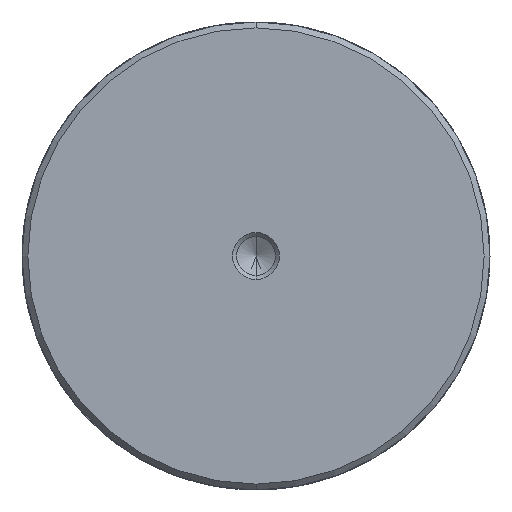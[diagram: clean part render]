
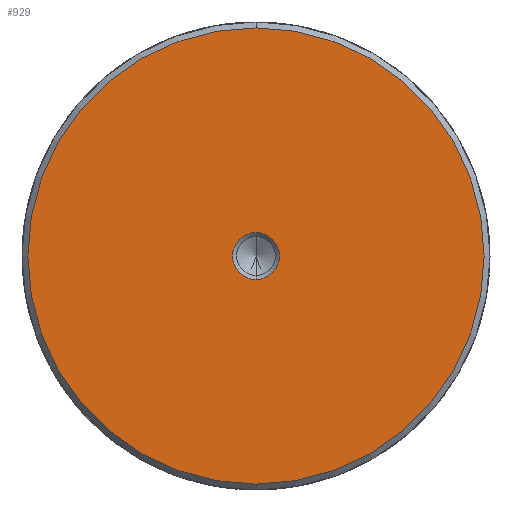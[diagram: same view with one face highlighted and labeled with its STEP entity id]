
A CAD part, left-side view. The second image highlights one B-rep face of the part: STEP entity #929.
In plain terms, the highlighted planar face has unit normal (-1, 0, 0).
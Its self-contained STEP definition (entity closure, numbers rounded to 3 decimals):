
#827=CARTESIAN_POINT('Vertex',(0.,0.,-39.)) ;
#830=CARTESIAN_POINT('Axis2P3D Location',(0.,0.,0.)) ;
#834=CARTESIAN_POINT('Vertex',(0.,39.,0.)) ;
#837=CARTESIAN_POINT('Axis2P3D Location',(0.,0.,0.)) ;
#841=CARTESIAN_POINT('Vertex',(0.,0.,39.)) ;
#863=CARTESIAN_POINT('Axis2P3D Location',(0.,0.,0.)) ;
#867=CARTESIAN_POINT('Vertex',(0.,-39.,0.)) ;
#870=CARTESIAN_POINT('Axis2P3D Location',(0.,0.,0.)) ;
#884=CARTESIAN_POINT('Axis2P3D Location',(0.,0.,0.)) ;
#895=CARTESIAN_POINT('Axis2P3D Location',(0.,0.,0.)) ;
#899=CARTESIAN_POINT('Vertex',(0.,4.,0.)) ;
#901=CARTESIAN_POINT('Vertex',(0.,0.,4.)) ;
#904=CARTESIAN_POINT('Axis2P3D Location',(0.,0.,0.)) ;
#908=CARTESIAN_POINT('Vertex',(0.,-4.,0.)) ;
#911=CARTESIAN_POINT('Axis2P3D Location',(0.,0.,0.)) ;
#915=CARTESIAN_POINT('Vertex',(0.,0.,-4.)) ;
#918=CARTESIAN_POINT('Axis2P3D Location',(0.,0.,0.)) ;
#831=DIRECTION('Axis2P3D Direction',(1.,0.,-0.)) ;
#838=DIRECTION('Axis2P3D Direction',(1.,0.,-0.)) ;
#864=DIRECTION('Axis2P3D Direction',(1.,0.,-0.)) ;
#871=DIRECTION('Axis2P3D Direction',(1.,0.,-0.)) ;
#885=DIRECTION('Axis2P3D Direction',(1.,0.,-0.)) ;
#886=DIRECTION('Axis2P3D XDirection',(-0.,0.,-1.)) ;
#896=DIRECTION('Axis2P3D Direction',(1.,0.,-0.)) ;
#905=DIRECTION('Axis2P3D Direction',(1.,0.,-0.)) ;
#912=DIRECTION('Axis2P3D Direction',(1.,0.,-0.)) ;
#919=DIRECTION('Axis2P3D Direction',(1.,0.,-0.)) ;
#832=AXIS2_PLACEMENT_3D('Circle Axis2P3D',#830,#831,$) ;
#839=AXIS2_PLACEMENT_3D('Circle Axis2P3D',#837,#838,$) ;
#865=AXIS2_PLACEMENT_3D('Circle Axis2P3D',#863,#864,$) ;
#872=AXIS2_PLACEMENT_3D('Circle Axis2P3D',#870,#871,$) ;
#887=AXIS2_PLACEMENT_3D('Plane Axis2P3D',#884,#885,#886) ;
#897=AXIS2_PLACEMENT_3D('Circle Axis2P3D',#895,#896,$) ;
#906=AXIS2_PLACEMENT_3D('Circle Axis2P3D',#904,#905,$) ;
#913=AXIS2_PLACEMENT_3D('Circle Axis2P3D',#911,#912,$) ;
#920=AXIS2_PLACEMENT_3D('Circle Axis2P3D',#918,#919,$) ;
#890=ORIENTED_EDGE('',*,*,#836,.F.) ;
#891=ORIENTED_EDGE('',*,*,#874,.F.) ;
#892=ORIENTED_EDGE('',*,*,#869,.F.) ;
#893=ORIENTED_EDGE('',*,*,#843,.F.) ;
#924=ORIENTED_EDGE('',*,*,#903,.T.) ;
#925=ORIENTED_EDGE('',*,*,#910,.T.) ;
#926=ORIENTED_EDGE('',*,*,#917,.T.) ;
#927=ORIENTED_EDGE('',*,*,#922,.T.) ;
#928=FACE_BOUND('',#923,.T.) ;
#929=ADVANCED_FACE('720-80x800',(#894,#928),#888,.F.) ;
#833=CIRCLE('generated circle',#832,39.) ;
#840=CIRCLE('generated circle',#839,39.) ;
#866=CIRCLE('generated circle',#865,39.) ;
#873=CIRCLE('generated circle',#872,39.) ;
#898=CIRCLE('generated circle',#897,4.) ;
#907=CIRCLE('generated circle',#906,4.) ;
#914=CIRCLE('generated circle',#913,4.) ;
#921=CIRCLE('generated circle',#920,4.) ;
#836=EDGE_CURVE('',#828,#835,#833,.T.) ;
#843=EDGE_CURVE('',#835,#842,#840,.T.) ;
#869=EDGE_CURVE('',#842,#868,#866,.T.) ;
#874=EDGE_CURVE('',#868,#828,#873,.T.) ;
#903=EDGE_CURVE('',#900,#902,#898,.T.) ;
#910=EDGE_CURVE('',#902,#909,#907,.T.) ;
#917=EDGE_CURVE('',#909,#916,#914,.T.) ;
#922=EDGE_CURVE('',#916,#900,#921,.T.) ;
#889=EDGE_LOOP('',(#890,#891,#892,#893)) ;
#923=EDGE_LOOP('',(#924,#925,#926,#927)) ;
#894=FACE_OUTER_BOUND('',#889,.T.) ;
#888=PLANE('Plane',#887) ;
#828=VERTEX_POINT('',#827) ;
#835=VERTEX_POINT('',#834) ;
#842=VERTEX_POINT('',#841) ;
#868=VERTEX_POINT('',#867) ;
#900=VERTEX_POINT('',#899) ;
#902=VERTEX_POINT('',#901) ;
#909=VERTEX_POINT('',#908) ;
#916=VERTEX_POINT('',#915) ;
